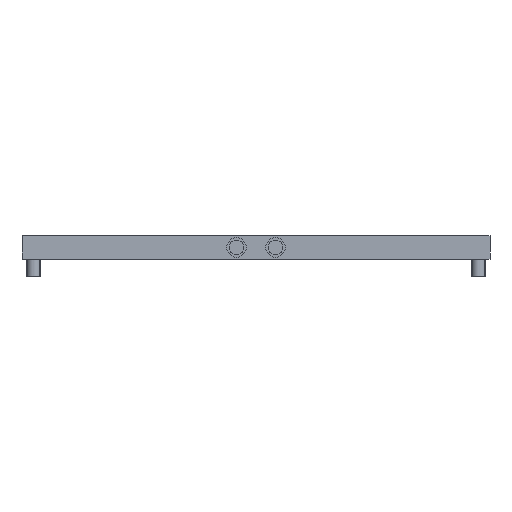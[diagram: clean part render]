
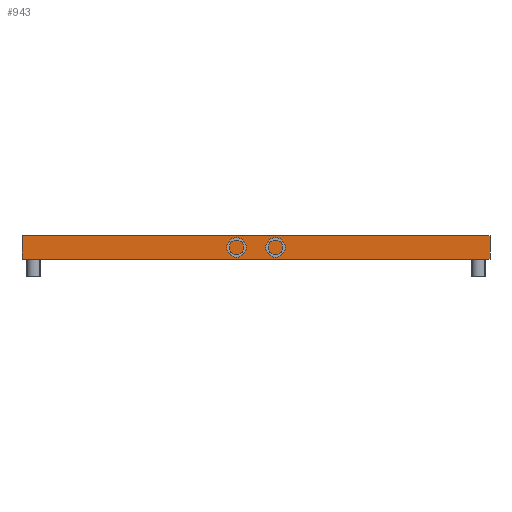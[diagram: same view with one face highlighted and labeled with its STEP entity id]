
A CAD part, front view. The second image highlights one B-rep face of the part: STEP entity #943.
In plain terms, the highlighted planar face has unit normal (0, -1, 0).
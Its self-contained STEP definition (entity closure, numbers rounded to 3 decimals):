
#312=FACE_OUTER_BOUND('',#373,.T.);
#373=EDGE_LOOP('',(#720,#721,#722,#723));
#445=VERTEX_POINT('',#1966);
#447=VERTEX_POINT('',#1970);
#449=VERTEX_POINT('',#1976);
#451=VERTEX_POINT('',#1984);
#544=EDGE_CURVE('',#447,#445,#1060,.T.);
#547=EDGE_CURVE('',#447,#449,#1063,.T.);
#551=EDGE_CURVE('',#449,#451,#1067,.T.);
#552=EDGE_CURVE('',#445,#451,#1068,.T.);
#720=ORIENTED_EDGE('',*,*,#551,.T.);
#721=ORIENTED_EDGE('',*,*,#552,.F.);
#722=ORIENTED_EDGE('',*,*,#544,.F.);
#723=ORIENTED_EDGE('',*,*,#547,.T.);
#897=PLANE('',#1319);
#943=ADVANCED_FACE('',(#312),#897,.T.);
#1060=LINE('',#1972,#1146);
#1063=LINE('',#1978,#1149);
#1067=LINE('',#1986,#1153);
#1068=LINE('',#1988,#1154);
#1146=VECTOR('',#1549,10.);
#1149=VECTOR('',#1554,10.);
#1153=VECTOR('',#1562,10.);
#1154=VECTOR('',#1565,10.);
#1319=AXIS2_PLACEMENT_3D('',#1989,#1566,#1567);
#1549=DIRECTION('',(-1.,0.,0.));
#1554=DIRECTION('',(0.,0.,1.));
#1562=DIRECTION('',(-1.,0.,0.));
#1565=DIRECTION('',(0.,0.,1.));
#1566=DIRECTION('center_axis',(0.,-1.,0.));
#1567=DIRECTION('ref_axis',(0.,0.,-1.));
#1966=CARTESIAN_POINT('',(-15.,-15.,0.));
#1970=CARTESIAN_POINT('',(15.,-15.,0.));
#1972=CARTESIAN_POINT('',(7.5,-15.,0.));
#1976=CARTESIAN_POINT('',(15.,-15.,600.));
#1978=CARTESIAN_POINT('',(15.,-15.,0.));
#1984=CARTESIAN_POINT('',(-15.,-15.,600.));
#1986=CARTESIAN_POINT('',(7.5,-15.,600.));
#1988=CARTESIAN_POINT('',(-15.,-15.,0.));
#1989=CARTESIAN_POINT('Origin',(15.,-15.,0.));
